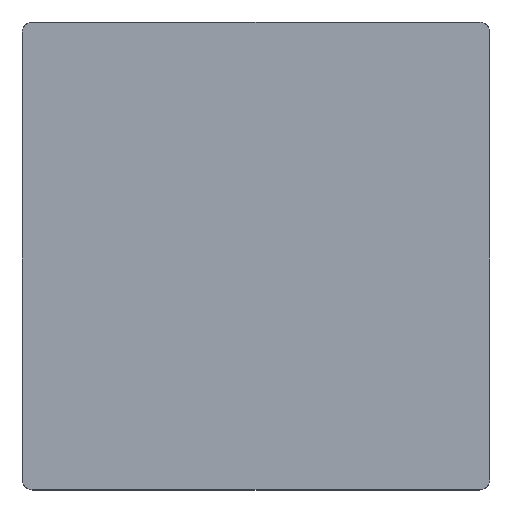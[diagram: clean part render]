
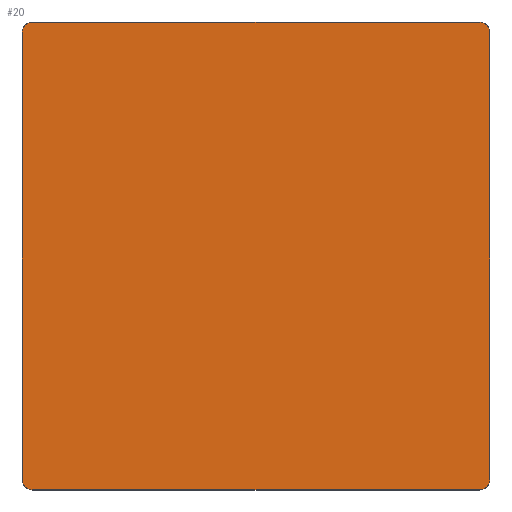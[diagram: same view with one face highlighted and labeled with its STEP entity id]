
A CAD part, top view. The second image highlights one B-rep face of the part: STEP entity #20.
In plain terms, the highlighted planar face has unit normal (0, 0, 1).
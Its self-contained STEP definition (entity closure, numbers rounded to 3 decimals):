
#20=ADVANCED_FACE($,(#44),#298,.T.);
#44=FACE_OUTER_BOUND($,#68,.T.);
#68=EDGE_LOOP($,(#102,#103,#104,#105,#106,#107,#108,#109));
#102=ORIENTED_EDGE($,*,*,#213,.F.);
#103=ORIENTED_EDGE($,*,*,#204,.F.);
#104=ORIENTED_EDGE($,*,*,#212,.F.);
#105=ORIENTED_EDGE($,*,*,#203,.F.);
#106=ORIENTED_EDGE($,*,*,#211,.F.);
#107=ORIENTED_EDGE($,*,*,#202,.F.);
#108=ORIENTED_EDGE($,*,*,#210,.F.);
#109=ORIENTED_EDGE($,*,*,#205,.F.);
#202=EDGE_CURVE($,#261,#260,#340,.T.);
#203=EDGE_CURVE($,#263,#262,#341,.T.);
#204=EDGE_CURVE($,#265,#264,#342,.T.);
#205=EDGE_CURVE($,#267,#266,#343,.T.);
#210=EDGE_CURVE($,#266,#261,#316,.T.);
#211=EDGE_CURVE($,#260,#263,#317,.T.);
#212=EDGE_CURVE($,#262,#265,#318,.T.);
#213=EDGE_CURVE($,#264,#267,#319,.T.);
#260=VERTEX_POINT($,#626);
#261=VERTEX_POINT($,#627);
#262=VERTEX_POINT($,#628);
#263=VERTEX_POINT($,#629);
#264=VERTEX_POINT($,#630);
#265=VERTEX_POINT($,#631);
#266=VERTEX_POINT($,#632);
#267=VERTEX_POINT($,#633);
#298=PLANE($,#456);
#316=(
BOUNDED_CURVE()
B_SPLINE_CURVE(2,(#520,#521,#522),.UNSPECIFIED.,.F.,.F.)
B_SPLINE_CURVE_WITH_KNOTS((3,3),(-1.,0.),.UNSPECIFIED.)
CURVE()
GEOMETRIC_REPRESENTATION_ITEM()
RATIONAL_B_SPLINE_CURVE((1.,0.707,1.))
REPRESENTATION_ITEM($)
);
#317=(
BOUNDED_CURVE()
B_SPLINE_CURVE(2,(#523,#524,#525),.UNSPECIFIED.,.F.,.F.)
B_SPLINE_CURVE_WITH_KNOTS((3,3),(0.,1.),.UNSPECIFIED.)
CURVE()
GEOMETRIC_REPRESENTATION_ITEM()
RATIONAL_B_SPLINE_CURVE((1.,0.707,1.))
REPRESENTATION_ITEM($)
);
#318=(
BOUNDED_CURVE()
B_SPLINE_CURVE(2,(#526,#527,#528),.UNSPECIFIED.,.F.,.F.)
B_SPLINE_CURVE_WITH_KNOTS((3,3),(0.,1.),.UNSPECIFIED.)
CURVE()
GEOMETRIC_REPRESENTATION_ITEM()
RATIONAL_B_SPLINE_CURVE((1.,0.707,1.))
REPRESENTATION_ITEM($)
);
#319=(
BOUNDED_CURVE()
B_SPLINE_CURVE(2,(#529,#530,#531),.UNSPECIFIED.,.F.,.F.)
B_SPLINE_CURVE_WITH_KNOTS((3,3),(0.,1.),.UNSPECIFIED.)
CURVE()
GEOMETRIC_REPRESENTATION_ITEM()
RATIONAL_B_SPLINE_CURVE((1.,0.707,1.))
REPRESENTATION_ITEM($)
);
#340=B_SPLINE_CURVE_WITH_KNOTS($,1,(#500,#501),.UNSPECIFIED.,.F.,.F.,(2,
2),(27.,1173.),.UNSPECIFIED.);
#341=B_SPLINE_CURVE_WITH_KNOTS($,1,(#502,#503),.UNSPECIFIED.,.F.,.F.,(2,
2),(27.,1173.),.UNSPECIFIED.);
#342=B_SPLINE_CURVE_WITH_KNOTS($,1,(#504,#505),.UNSPECIFIED.,.F.,.F.,(2,
2),(27.,1173.),.UNSPECIFIED.);
#343=B_SPLINE_CURVE_WITH_KNOTS($,1,(#506,#507),.UNSPECIFIED.,.F.,.F.,(2,
2),(27.,1173.),.UNSPECIFIED.);
#456=AXIS2_PLACEMENT_3D($,#566,#475,$);
#475=DIRECTION($,(0.,0.,1.));
#500=CARTESIAN_POINT($,(2035.142,-1539.597,15.));
#501=CARTESIAN_POINT($,(2035.142,-393.597,15.));
#502=CARTESIAN_POINT($,(2062.142,-366.597,15.));
#503=CARTESIAN_POINT($,(3208.142,-366.597,15.));
#504=CARTESIAN_POINT($,(3235.142,-393.597,15.));
#505=CARTESIAN_POINT($,(3235.142,-1539.597,15.));
#506=CARTESIAN_POINT($,(3208.142,-1566.597,15.));
#507=CARTESIAN_POINT($,(2062.142,-1566.597,15.));
#520=CARTESIAN_POINT($,(2062.142,-1566.597,15.));
#521=CARTESIAN_POINT($,(2035.142,-1566.597,15.));
#522=CARTESIAN_POINT($,(2035.142,-1539.597,15.));
#523=CARTESIAN_POINT($,(2035.142,-393.597,15.));
#524=CARTESIAN_POINT($,(2035.142,-366.597,15.));
#525=CARTESIAN_POINT($,(2062.142,-366.597,15.));
#526=CARTESIAN_POINT($,(3208.142,-366.597,15.));
#527=CARTESIAN_POINT($,(3235.142,-366.597,15.));
#528=CARTESIAN_POINT($,(3235.142,-393.597,15.));
#529=CARTESIAN_POINT($,(3235.142,-1539.597,15.));
#530=CARTESIAN_POINT($,(3235.142,-1566.597,15.));
#531=CARTESIAN_POINT($,(3208.142,-1566.597,15.));
#566=CARTESIAN_POINT($,(2035.142,-1566.597,15.));
#626=CARTESIAN_POINT($,(2035.142,-393.597,15.));
#627=CARTESIAN_POINT($,(2035.142,-1539.597,15.));
#628=CARTESIAN_POINT($,(3208.142,-366.597,15.));
#629=CARTESIAN_POINT($,(2062.142,-366.597,15.));
#630=CARTESIAN_POINT($,(3235.142,-1539.597,15.));
#631=CARTESIAN_POINT($,(3235.142,-393.597,15.));
#632=CARTESIAN_POINT($,(2062.142,-1566.597,15.));
#633=CARTESIAN_POINT($,(3208.142,-1566.597,15.));
